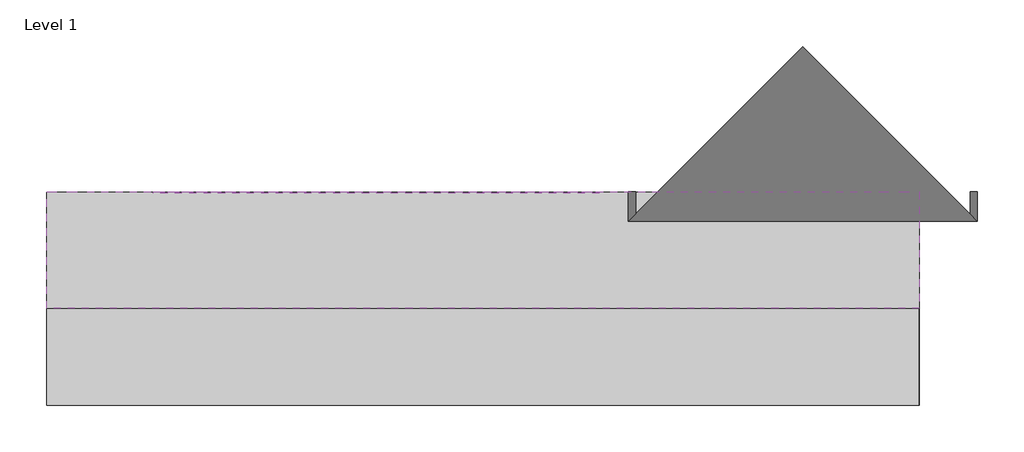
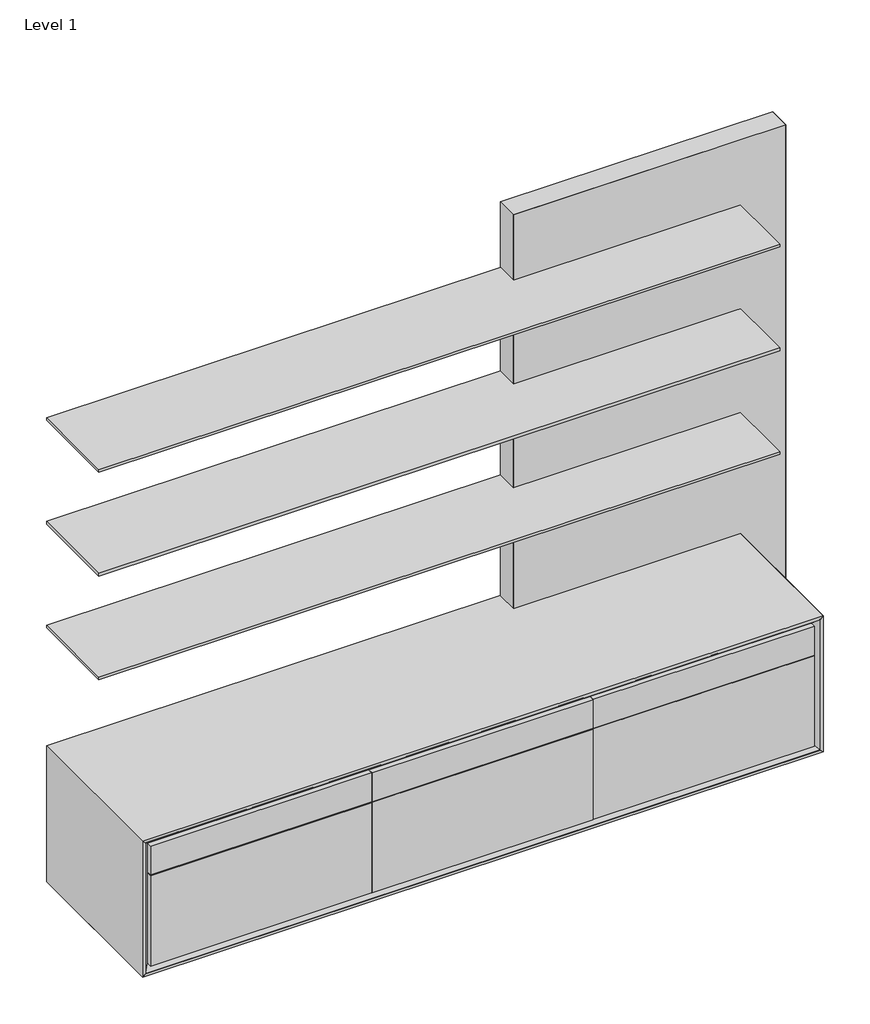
# One storey, incomplete: 8 proxies.
"""IFC4 building model written with IfcOpenShell, lengths in millimetres."""

from ifc_helpers import new_model, si_unit, origin, place, context, project, spatial, transform, mapped, element, save
from components import generic_models_aabe800b, generic_models_4774c616, generic_models_9f340892, generic_models_ebc7bf58

model = new_model("IFC4")

# Units and contexts
model_context = context("Model", 3, world=origin())
ifc_project = project(units=[si_unit("LENGTHUNIT", "METRE", prefix="MILLI")], contexts=[model_context])

# Site, building, storey
site = spatial("IfcSite", under=ifc_project)
building = spatial("IfcBuilding", under=site)
storey = spatial("IfcBuildingStorey", under=building, Name="Level 1", Elevation=0.0)

# Proxies
placement = place(None, origin())
generic_models_shape = generic_models_aabe800b(model_context)
element("IfcBuildingElementProxy", 1, Name="AERO^STANDARD CREDENZA_WALL HUNG SHELVES-NOTCHED SHELF", ObjectType="AERO^STANDARD CREDENZA_WALL HUNG SHELVES-NOTCHED SHELF", at=placement, inside=storey, context=model_context, shape_type="MappedRepresentation", body=[
    mapped(generic_models_shape, transform((-1524.0, -304.8, 1863.725), x_axis=(1.0, 0.0, 0.0), y_axis=(0.0, 0.0, 1.0), z_axis=(0.0, -1.0, 0.0))),
])
element("IfcBuildingElementProxy", 2, Name="AERO^STANDARD CREDENZA_WALL HUNG SHELVES-NOTCHED SHELF", ObjectType="AERO^STANDARD CREDENZA_WALL HUNG SHELVES-NOTCHED SHELF", at=placement, inside=storey, context=model_context, shape_type="MappedRepresentation", body=[
    mapped(generic_models_shape, transform((-1524.0, -304.8, 1127.125), x_axis=(1.0, 0.0, 0.0), y_axis=(0.0, 0.0, 1.0), z_axis=(0.0, -1.0, 0.0))),
])
element("IfcBuildingElementProxy", 3, Name="AERO^STANDARD CREDENZA_WALL HUNG SHELVES-NOTCHED SHELF", ObjectType="AERO^STANDARD CREDENZA_WALL HUNG SHELVES-NOTCHED SHELF", at=placement, inside=storey, context=model_context, shape_type="MappedRepresentation", body=[
    mapped(generic_models_shape, transform((-1524.0, -304.8, 1495.425), x_axis=(1.0, 0.0, 0.0), y_axis=(0.0, 0.0, 1.0), z_axis=(0.0, -1.0, 0.0))),
])
generic_models_2_shape = generic_models_4774c616(model_context)
element("IfcBuildingElementProxy", 4, Name="SHEPPARD BRACKETS^1 INCH PLATE_7 INCH POST-46 INCH LENGTH", ObjectType="SHEPPARD BRACKETS^1 INCH PLATE_7 INCH POST-46 INCH LENGTH", at=placement, inside=storey, context=model_context, shape_type="MappedRepresentation", body=[
    mapped(generic_models_2_shape, transform((-1244.6, 0.0, 1133.475), x_axis=(1.0, 0.0, 0.0), y_axis=(0.0, 0.0, 1.0), z_axis=(0.0, -1.0, 0.0))),
])
element("IfcBuildingElementProxy", 5, Name="SHEPPARD BRACKETS^1 INCH PLATE_7 INCH POST-46 INCH LENGTH", ObjectType="SHEPPARD BRACKETS^1 INCH PLATE_7 INCH POST-46 INCH LENGTH", at=placement, inside=storey, context=model_context, shape_type="MappedRepresentation", body=[
    mapped(generic_models_2_shape, transform((-1244.6, 0.0, 1501.775), x_axis=(1.0, 0.0, 0.0), y_axis=(0.0, 0.0, 1.0), z_axis=(0.0, -1.0, 0.0))),
])
element("IfcBuildingElementProxy", 6, Name="SHEPPARD BRACKETS^1 INCH PLATE_7 INCH POST-46 INCH LENGTH", ObjectType="SHEPPARD BRACKETS^1 INCH PLATE_7 INCH POST-46 INCH LENGTH", at=placement, inside=storey, context=model_context, shape_type="MappedRepresentation", body=[
    mapped(generic_models_2_shape, transform((-1244.6, 0.0, 1870.075), x_axis=(1.0, 0.0, 0.0), y_axis=(0.0, 0.0, 1.0), z_axis=(0.0, -1.0, 0.0))),
])
generic_models_3_shape = generic_models_9f340892(model_context)
element("IfcBuildingElementProxy", 7, Name="AERO^STANDARD CREDENZA_19H WH CREDENZA-NOTCHED CASE", ObjectType="AERO^STANDARD CREDENZA_19H WH CREDENZA-NOTCHED CASE", at=placement, inside=storey, context=model_context, shape_type="MappedRepresentation", body=[
    mapped(generic_models_3_shape, transform((-1524.0, 0.0, 254.0), x_axis=(1.0, 0.0, 0.0), y_axis=(0.0, 0.0, 1.0), z_axis=(0.0, -1.0, 0.0))),
])
generic_models_4_shape = generic_models_ebc7bf58(model_context)
element("IfcBuildingElementProxy", 8, Name="AERO^STANDARD CREDENZA_WALL HUNG W SHELVES-84 WOOD WALL", ObjectType="AERO^STANDARD CREDENZA_WALL HUNG W SHELVES-84 WOOD WALL", at=placement, inside=storey, context=model_context, shape_type="MappedRepresentation", body=[
    mapped(generic_models_4_shape, transform((0.0, -57.15, 0.0), x_axis=(1.0, 0.0, 0.0), y_axis=(0.0, 0.0, 1.0), z_axis=(0.0, -1.0, 0.0))),
])

save(model, "model.ifc")
